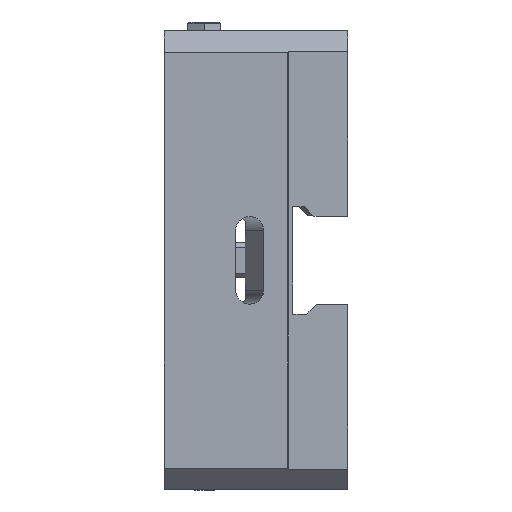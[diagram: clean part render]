
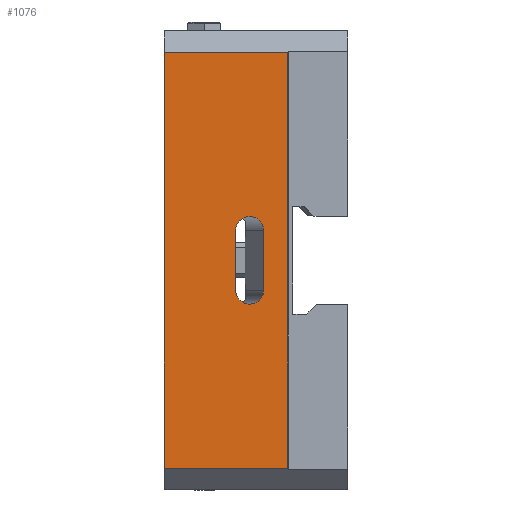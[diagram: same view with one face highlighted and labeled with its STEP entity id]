
A CAD part, left-side view. The second image highlights one B-rep face of the part: STEP entity #1076.
In plain terms, the highlighted planar face has unit normal (-1, 0, 0).
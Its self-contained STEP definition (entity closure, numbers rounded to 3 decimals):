
#157 = VECTOR ( 'NONE', #2538, 1000. ) ;
#322 = AXIS2_PLACEMENT_3D ( 'NONE', #4946, #5687, #2807 ) ;
#411 = VECTOR ( 'NONE', #677, 1000. ) ;
#574 = CARTESIAN_POINT ( 'NONE',  ( -62.5, 51.277, -13.75 ) ) ;
#578 = VECTOR ( 'NONE', #3302, 1000. ) ;
#656 = CARTESIAN_POINT ( 'NONE',  ( -62.5, 38.498, 20. ) ) ;
#677 = DIRECTION ( 'NONE',  ( 0., 0., -1. ) ) ;
#787 = EDGE_CURVE ( 'NONE', #4309, #6705, #4526, .T. ) ;
#1019 = EDGE_LOOP ( 'NONE', ( #1054, #6272, #6473, #2668 ) ) ;
#1054 = ORIENTED_EDGE ( 'NONE', *, *, #7811, .T. ) ;
#1076 = ADVANCED_FACE ( 'NONE', ( #7310, #1138 ), #9545, .F. ) ;
#1138 = FACE_OUTER_BOUND ( 'NONE', #1019, .T. ) ;
#1161 = CARTESIAN_POINT ( 'NONE',  ( -62.5, 27.5, 95. ) ) ;
#1281 = CARTESIAN_POINT ( 'NONE',  ( -62.5, 51.277, 26.25 ) ) ;
#1343 = CARTESIAN_POINT ( 'NONE',  ( -62.5, 84., -95. ) ) ;
#1382 = VERTEX_POINT ( 'NONE', #1343 ) ;
#1435 = EDGE_CURVE ( 'NONE', #1382, #5075, #1587, .T. ) ;
#1587 = LINE ( 'NONE', #3958, #4850 ) ;
#1852 = CARTESIAN_POINT ( 'NONE',  ( -62.5, 38.498, 13.75 ) ) ;
#2382 = ORIENTED_EDGE ( 'NONE', *, *, #9997, .T. ) ;
#2474 = CARTESIAN_POINT ( 'NONE',  ( -62.5, 38.498, 13.75 ) ) ;
#2538 = DIRECTION ( 'NONE',  ( 0., 1., 0. ) ) ;
#2642 =( BOUNDED_CURVE ( )  B_SPLINE_CURVE ( 3, ( #574, #3729, #9813, #2867 ),
 .UNSPECIFIED., .F., .T. ) 
 B_SPLINE_CURVE_WITH_KNOTS ( ( 4, 4 ),
 ( 3.142, 6.283 ),
 .UNSPECIFIED. ) 
 CURVE ( )  GEOMETRIC_REPRESENTATION_ITEM ( )  RATIONAL_B_SPLINE_CURVE ( ( 1., 0.333, 0.333, 1. ) ) 
 REPRESENTATION_ITEM ( '' )  );
#2668 = ORIENTED_EDGE ( 'NONE', *, *, #6419, .T. ) ;
#2807 = DIRECTION ( 'NONE',  ( 0., 1., 0. ) ) ;
#2867 = CARTESIAN_POINT ( 'NONE',  ( -62.5, 38.498, -13.75 ) ) ;
#3017 = VERTEX_POINT ( 'NONE', #7732 ) ;
#3194 = EDGE_CURVE ( 'NONE', #4309, #4062, #4829, .T. ) ;
#3302 = DIRECTION ( 'NONE',  ( 0., 0., -1. ) ) ;
#3333 = CARTESIAN_POINT ( 'NONE',  ( -62.5, 27.5, -95. ) ) ;
#3556 = CARTESIAN_POINT ( 'NONE',  ( -62.5, 51.277, 13.75 ) ) ;
#3729 = CARTESIAN_POINT ( 'NONE',  ( -62.5, 51.277, -26.25 ) ) ;
#3765 = DIRECTION ( 'NONE',  ( 0., 0., -1. ) ) ;
#3894 = DIRECTION ( 'NONE',  ( 0., 0., 1. ) ) ;
#3958 = CARTESIAN_POINT ( 'NONE',  ( -62.5, 27.5, -95. ) ) ;
#4062 = VERTEX_POINT ( 'NONE', #5371 ) ;
#4096 = CARTESIAN_POINT ( 'NONE',  ( -62.5, 27.5, 95. ) ) ;
#4216 = EDGE_LOOP ( 'NONE', ( #7767, #2382, #9836, #5481 ) ) ;
#4309 = VERTEX_POINT ( 'NONE', #2474 ) ;
#4526 = LINE ( 'NONE', #656, #5133 ) ;
#4829 =( BOUNDED_CURVE ( )  B_SPLINE_CURVE ( 3, ( #1852, #8020, #1281, #3556 ),
 .UNSPECIFIED., .F., .T. ) 
 B_SPLINE_CURVE_WITH_KNOTS ( ( 4, 4 ),
 ( 0., 3.142 ),
 .UNSPECIFIED. ) 
 CURVE ( )  GEOMETRIC_REPRESENTATION_ITEM ( )  RATIONAL_B_SPLINE_CURVE ( ( 1., 0.333, 0.333, 1. ) ) 
 REPRESENTATION_ITEM ( '' )  );
#4850 = VECTOR ( 'NONE', #7084, 1000. ) ;
#4946 = CARTESIAN_POINT ( 'NONE',  ( -62.5, 27.5, 105. ) ) ;
#5075 = VERTEX_POINT ( 'NONE', #3333 ) ;
#5133 = VECTOR ( 'NONE', #3765, 1000. ) ;
#5176 = EDGE_CURVE ( 'NONE', #6030, #6705, #2642, .T. ) ;
#5258 = LINE ( 'NONE', #7791, #411 ) ;
#5371 = CARTESIAN_POINT ( 'NONE',  ( -62.5, 51.277, 13.75 ) ) ;
#5481 = ORIENTED_EDGE ( 'NONE', *, *, #787, .T. ) ;
#5687 = DIRECTION ( 'NONE',  ( 1., 0., 0. ) ) ;
#6030 = VERTEX_POINT ( 'NONE', #9241 ) ;
#6272 = ORIENTED_EDGE ( 'NONE', *, *, #1435, .T. ) ;
#6419 = EDGE_CURVE ( 'NONE', #7362, #3017, #9566, .T. ) ;
#6473 = ORIENTED_EDGE ( 'NONE', *, *, #8204, .F. ) ;
#6705 = VERTEX_POINT ( 'NONE', #7516 ) ;
#6849 = LINE ( 'NONE', #6893, #578 ) ;
#6893 = CARTESIAN_POINT ( 'NONE',  ( -62.5, 27.5, 105. ) ) ;
#7084 = DIRECTION ( 'NONE',  ( 0., -1., 0. ) ) ;
#7240 = VECTOR ( 'NONE', #3894, 1000. ) ;
#7310 = FACE_BOUND ( 'NONE', #4216, .T. ) ;
#7362 = VERTEX_POINT ( 'NONE', #1161 ) ;
#7513 = CARTESIAN_POINT ( 'NONE',  ( -62.5, 51.277, 105. ) ) ;
#7516 = CARTESIAN_POINT ( 'NONE',  ( -62.5, 38.498, -13.75 ) ) ;
#7732 = CARTESIAN_POINT ( 'NONE',  ( -62.5, 84., 95. ) ) ;
#7767 = ORIENTED_EDGE ( 'NONE', *, *, #5176, .F. ) ;
#7791 = CARTESIAN_POINT ( 'NONE',  ( -62.5, 84., 105. ) ) ;
#7811 = EDGE_CURVE ( 'NONE', #3017, #1382, #5258, .T. ) ;
#8020 = CARTESIAN_POINT ( 'NONE',  ( -62.5, 38.498, 26.25 ) ) ;
#8204 = EDGE_CURVE ( 'NONE', #7362, #5075, #6849, .T. ) ;
#9095 = LINE ( 'NONE', #7513, #7240 ) ;
#9241 = CARTESIAN_POINT ( 'NONE',  ( -62.5, 51.277, -13.75 ) ) ;
#9545 = PLANE ( 'NONE',  #322 ) ;
#9566 = LINE ( 'NONE', #4096, #157 ) ;
#9813 = CARTESIAN_POINT ( 'NONE',  ( -62.5, 38.498, -26.25 ) ) ;
#9836 = ORIENTED_EDGE ( 'NONE', *, *, #3194, .F. ) ;
#9997 = EDGE_CURVE ( 'NONE', #6030, #4062, #9095, .T. ) ;
